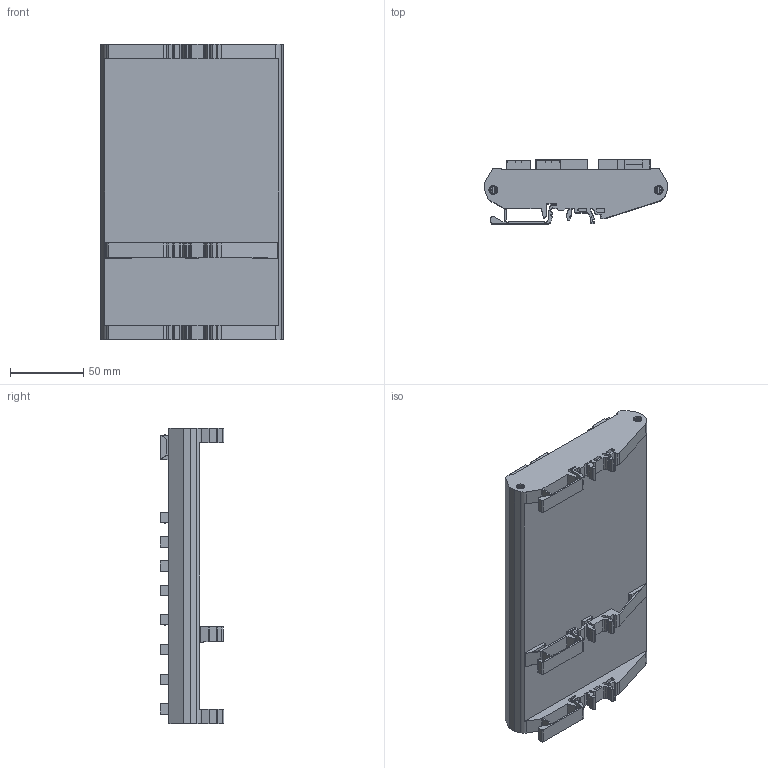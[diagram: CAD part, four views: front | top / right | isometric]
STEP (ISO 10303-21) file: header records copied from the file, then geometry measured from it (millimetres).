
FILE_DESCRIPTION (( 'STEP AP203' ), '1' );
FILE_NAME ('3Dͼֽ E128H1 V1.0.STEP', '2022-12-22T01:45:40', ( 'Microsoft' ), ( 'Microsoft' ), 'SwSTEP 2.0', 'SolidWorks 2020', '' );
FILE_SCHEMA (( 'CONFIG_CONTROL_DESIGN' ));
Products named in the file (1): 3Dͼֽ E128H1 V1.0
Bounding box: 125 x 43.71 x 202.2 mm (x, y, z)
Surface area: 135157.3 mm2 (no closed solid volume)
Topology: 0 solids, 277 shells, 4344 faces, 26942 edges, 22346 vertices
Faces by surface type: plane 3649, cylinder 352, bspline 335, torus 8
Entity records: 258998 total; most frequent: CARTESIAN_POINT 71245, ORIENTED_EDGE 34510, DIRECTION 31305, EDGE_CURVE 26942, VERTEX_POINT 22346, VECTOR 21055, LINE 21055, EDGE_LOOP 5281
